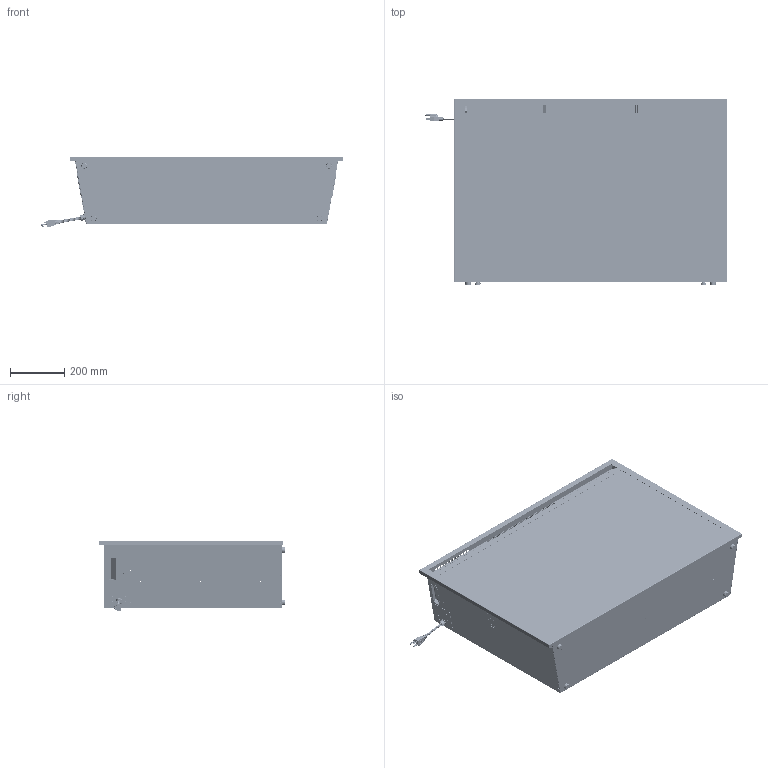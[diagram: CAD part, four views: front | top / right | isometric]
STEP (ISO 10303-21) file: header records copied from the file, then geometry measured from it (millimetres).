
FILE_DESCRIPTION((''),'2;1');
FILE_NAME('MF42_2','2025-10-13T15:42:54',('Administrator'),(''),'CREO PARAMETRIC BY PTC INC, 2022073','CREO PARAMETRIC BY PTC INC, 2022073','');
FILE_SCHEMA(('CONFIG_CONTROL_DESIGN','SHAPE_APPEARANCE_LAYERS_GROUPS'));
Products named in the file (1): MF42_2
Bounding box: 1116.87 x 689.8 x 261.53 mm (x, y, z)
Volume: 2833655.9 mm3; surface area: 8123173.7 mm2
Topology: 20 solids, 79 shells, 10310 faces, 31171 edges, 20924 vertices
Faces by surface type: plane 6683, cylinder 3181, sphere 165, bspline 102, cone 91, torus 78, extrusion 10
Entity records: 429128 total; most frequent: CARTESIAN_POINT 91464, ORIENTED_EDGE 61720, DIRECTION 53501, EDGE_CURVE 31040, VERTEX_POINT 20926, VECTOR 19795, LINE 19785, AXIS2_PLACEMENT_3D 16853
